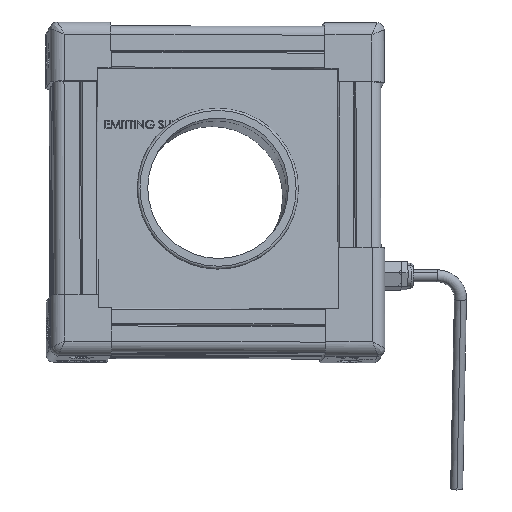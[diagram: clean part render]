
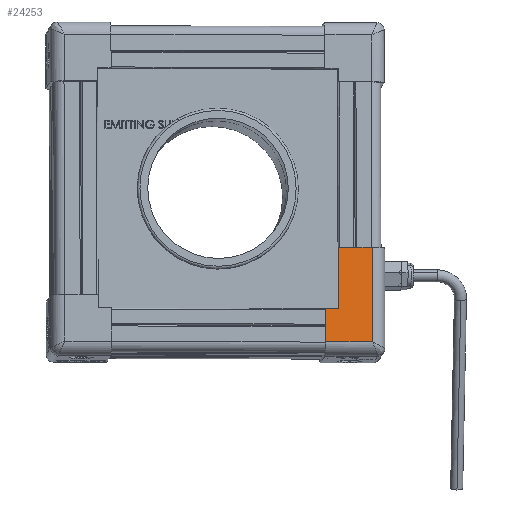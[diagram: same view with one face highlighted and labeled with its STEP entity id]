
A CAD part, top view. The second image highlights one B-rep face of the part: STEP entity #24253.
In plain terms, the highlighted planar face has unit normal (0.058, 0.084, 0.995) as drawn and (0, 0, 1) by its records, which use the part's own axes.
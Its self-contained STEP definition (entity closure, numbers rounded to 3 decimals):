
#331 = ORIENTED_EDGE ( 'NONE', *, *, #58243, .F. ) ;
#1658 = CARTESIAN_POINT ( 'NONE',  ( 9.5, 9.5, 43.2 ) ) ;
#2044 = LINE ( 'NONE', #12265, #56351 ) ;
#2550 = CARTESIAN_POINT ( 'NONE',  ( 9.5, 9.5, 43.2 ) ) ;
#4928 = ORIENTED_EDGE ( 'NONE', *, *, #12944, .F. ) ;
#5834 = ORIENTED_EDGE ( 'NONE', *, *, #18201, .T. ) ;
#6055 = DIRECTION ( 'NONE',  ( -1., 0., 0. ) ) ;
#7779 = VERTEX_POINT ( 'NONE', #28389 ) ;
#9254 = VECTOR ( 'NONE', #24711, 1000. ) ;
#11516 = PLANE ( 'NONE',  #25192 ) ;
#11989 = VERTEX_POINT ( 'NONE', #2550 ) ;
#12265 = CARTESIAN_POINT ( 'NONE',  ( 10., -4.5, 43.2 ) ) ;
#12944 = EDGE_CURVE ( 'NONE', #68152, #7779, #47400, .T. ) ;
#12966 = DIRECTION ( 'NONE',  ( -1., 0., 0. ) ) ;
#13246 = DIRECTION ( 'NONE',  ( 0., -1., 0. ) ) ;
#15029 = EDGE_CURVE ( 'NONE', #11989, #50016, #41831, .T. ) ;
#15444 = LINE ( 'NONE', #71155, #20162 ) ;
#16338 = CARTESIAN_POINT ( 'NONE',  ( -4.5, 15., 43.2 ) ) ;
#18201 = EDGE_CURVE ( 'NONE', #53001, #23380, #15444, .T. ) ;
#19414 = CARTESIAN_POINT ( 'NONE',  ( 35., 15., 43.2 ) ) ;
#20162 = VECTOR ( 'NONE', #27431, 1000. ) ;
#22453 = CARTESIAN_POINT ( 'NONE',  ( 10., 15., 43.2 ) ) ;
#23380 = VERTEX_POINT ( 'NONE', #44295 ) ;
#23524 = LINE ( 'NONE', #22453, #61785 ) ;
#24253 = ADVANCED_FACE ( 'NONE', ( #61423 ), #11516, .F. ) ;
#24711 = DIRECTION ( 'NONE',  ( 0., 1., 0. ) ) ;
#25192 = AXIS2_PLACEMENT_3D ( 'NONE', #33711, #55900, #6055 ) ;
#27431 = DIRECTION ( 'NONE',  ( 0., -1., 0. ) ) ;
#28367 = EDGE_CURVE ( 'NONE', #68152, #11989, #62865, .T. ) ;
#28389 = CARTESIAN_POINT ( 'NONE',  ( 35., -4.5, 43.2 ) ) ;
#30210 = CARTESIAN_POINT ( 'NONE',  ( 9.5, 15., 43.2 ) ) ;
#33711 = CARTESIAN_POINT ( 'NONE',  ( 10., 10., 43.2 ) ) ;
#37482 = VECTOR ( 'NONE', #13246, 1000. ) ;
#41831 = LINE ( 'NONE', #30210, #9254 ) ;
#44295 = CARTESIAN_POINT ( 'NONE',  ( -4.5, -4.5, 43.2 ) ) ;
#46466 = EDGE_LOOP ( 'NONE', ( #49817, #47234, #331, #5834, #51265, #4928 ) ) ;
#47234 = ORIENTED_EDGE ( 'NONE', *, *, #15029, .T. ) ;
#47400 = LINE ( 'NONE', #19414, #37482 ) ;
#49817 = ORIENTED_EDGE ( 'NONE', *, *, #28367, .T. ) ;
#50016 = VERTEX_POINT ( 'NONE', #64582 ) ;
#51265 = ORIENTED_EDGE ( 'NONE', *, *, #71486, .T. ) ;
#53001 = VERTEX_POINT ( 'NONE', #16338 ) ;
#55900 = DIRECTION ( 'NONE',  ( 0., 0., -1. ) ) ;
#56351 = VECTOR ( 'NONE', #68678, 1000. ) ;
#58243 = EDGE_CURVE ( 'NONE', #53001, #50016, #23524, .T. ) ;
#61423 = FACE_OUTER_BOUND ( 'NONE', #46466, .T. ) ;
#61785 = VECTOR ( 'NONE', #62164, 1000. ) ;
#62164 = DIRECTION ( 'NONE',  ( 1., 0., 0. ) ) ;
#62865 = LINE ( 'NONE', #1658, #69550 ) ;
#64582 = CARTESIAN_POINT ( 'NONE',  ( 9.5, 15., 43.2 ) ) ;
#65542 = CARTESIAN_POINT ( 'NONE',  ( 35., 9.5, 43.2 ) ) ;
#68152 = VERTEX_POINT ( 'NONE', #65542 ) ;
#68678 = DIRECTION ( 'NONE',  ( 1., 0., 0. ) ) ;
#69550 = VECTOR ( 'NONE', #12966, 1000. ) ;
#71155 = CARTESIAN_POINT ( 'NONE',  ( -4.5, 10., 43.2 ) ) ;
#71486 = EDGE_CURVE ( 'NONE', #23380, #7779, #2044, .T. ) ;
